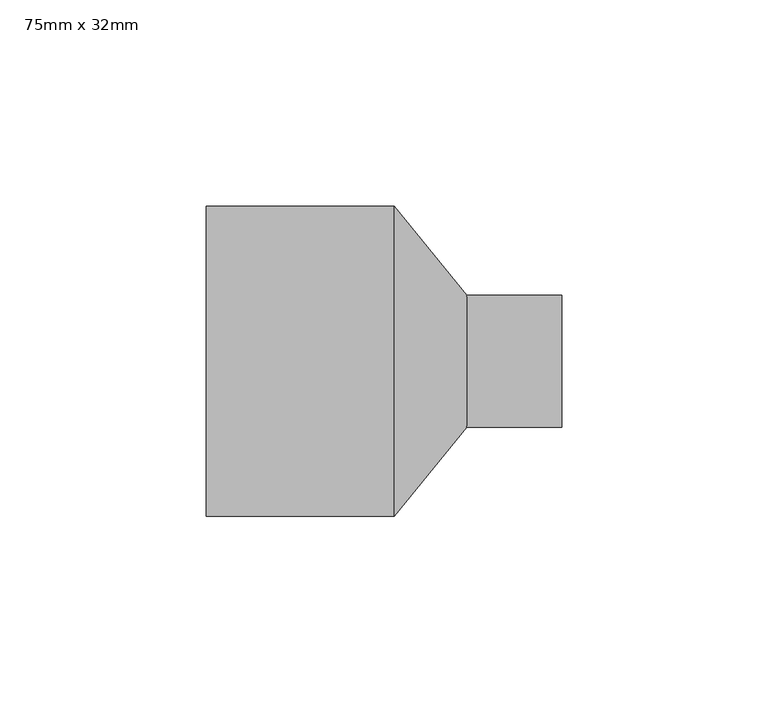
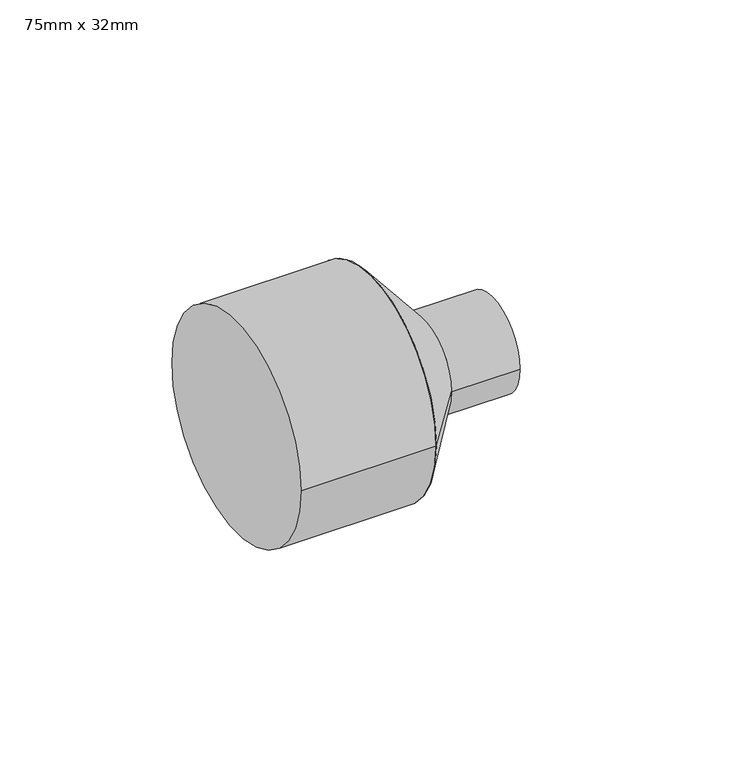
"""IFC4 building model written with IfcOpenShell, lengths in millimetres: pipe fitting geometry, PipeFitting_HTA_CPVC_ReducingBushesLongPattern : 75mm x 32mm."""

from ifc_helpers import new_model, si_unit, point, frame, origin, origin_2d, place, context, project, spatial, polyline, circle_curve, trimmed, segment, composite_curve, outline, extrude, source, transform, mapped, element, save
from ifc_brep_helpers import plane_surface, revolved_surface, advanced_brep


def pipe_fitting_75mm_x_32mm_e17b8f96(model_context):
    return source(origin(), model_context, "Body", "SolidModel", [
        advanced_brep(
        [(63.0, -16.0, 0.0), (63.0, 16.0, 0.0), (45.5, -37.5, 0.0), (45.5, 37.5, 0.0)],
        [
            (0, 1, circle_curve(frame((63.0, 0.0, 0.0), z_axis=(1.0, 0.0, 0.0), x_axis=(0.0, -1.0, 0.0)), 16.0)),
            (1, 0, circle_curve(frame((63.0, 0.0, 0.0), z_axis=(1.0, 0.0, 0.0), x_axis=(0.0, 1.0, 0.0)), 16.0)),
            (2, 3, circle_curve(frame((45.5, 0.0, 0.0), z_axis=(-1.0, 0.0, 0.0), x_axis=(0.0, 1.0, 0.0)), 37.5)),
            (3, 2, circle_curve(frame((45.5, 0.0, 0.0), z_axis=(-1.0, 0.0, 0.0), x_axis=(0.0, -1.0, 0.0)), 37.5)),
            (3, 1),
            (0, 2),
        ],
        [
            plane_surface(frame((63.0, 0.0, 0.0), z_axis=(1.0, 0.0, 0.0), x_axis=(0.0, 0.0, -1.0))),
            plane_surface(frame((45.5, 0.0, 0.0), z_axis=(-1.0, 0.0, 0.0), x_axis=(0.0, 0.0, -1.0))),
            revolved_surface(polyline([(63.0, -15.99999999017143, 0.0), (45.5, -37.5, 0.0)]), (76.0232558, 0.0, 0.0), (-1.0, 0.0, 0.0)),
            revolved_surface(polyline([(63.0, 15.99999999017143, 0.0), (45.5, 37.5, 0.0)]), (76.0232558, 0.0, 0.0), (-1.0, 0.0, 0.0)),
        ],
        [
            (0, [[1, 2]]),
            (1, [[3, 4]]),
            (2, [[-4, 5, -1, 6]]),
            (3, [[-3, -6, -2, -5]]),
        ],
    ),
        extrude(outline(composite_curve([segment(trimmed(circle_curve(origin_2d(), 16.0), [point((-16.0, 0.0))], [point((16.0, 0.0))], False, "CARTESIAN"), True, "CONTINUOUS"), segment(trimmed(circle_curve(origin_2d(), 16.0), [point((16.0, 0.0))], [point((-16.0, 0.0))], False, "CARTESIAN"), True, "CONTINUOUS")], self_intersect=False)), frame((63.0, 0.0, 0.0), z_axis=(1.0, 0.0, 0.0), x_axis=(0.0, 1.0, 0.0)), (0.0, 0.0, 1.0), 23.0),
        extrude(outline(composite_curve([segment(trimmed(circle_curve(origin_2d(), 37.5), [point((-37.5, 0.0))], [point((37.5, 0.0))], False, "CARTESIAN"), True, "CONTINUOUS"), segment(trimmed(circle_curve(origin_2d(), 37.5), [point((37.5, 0.0))], [point((-37.5, 0.0))], False, "CARTESIAN"), True, "CONTINUOUS")], self_intersect=False)), frame((0.0, 0.0, 0.0), z_axis=(1.0, 0.0, 0.0), x_axis=(0.0, 1.0, 0.0)), (0.0, 0.0, 1.0), 45.5),
    ])


if __name__ == "__main__":
    model = new_model("IFC4")
    model_context = context("Model", 3, world=origin())
    ifc_project = project(units=[si_unit("LENGTHUNIT", "METRE", prefix="MILLI")], contexts=[model_context])
    site = spatial("IfcSite", under=ifc_project)
    building = spatial("IfcBuilding", under=site)
    placement = place(None, origin())
    pipe_fitting_75mm_x_32mm_shape = pipe_fitting_75mm_x_32mm_e17b8f96(model_context)
    element("IfcPipeFitting", 1, ObjectType="PipeFitting_HTA_CPVC_ReducingBushesLongPattern : 75mm x 32mm", at=placement, inside=building, context=model_context, shape_type="MappedRepresentation", body=[
        mapped(pipe_fitting_75mm_x_32mm_shape, transform((0.0, 0.0, 0.0), x_axis=(1.0, 0.0, 0.0), y_axis=(0.0, 1.0, 0.0), z_axis=(0.0, 0.0, 1.0))),
    ])
    save(model, "model.ifc")
